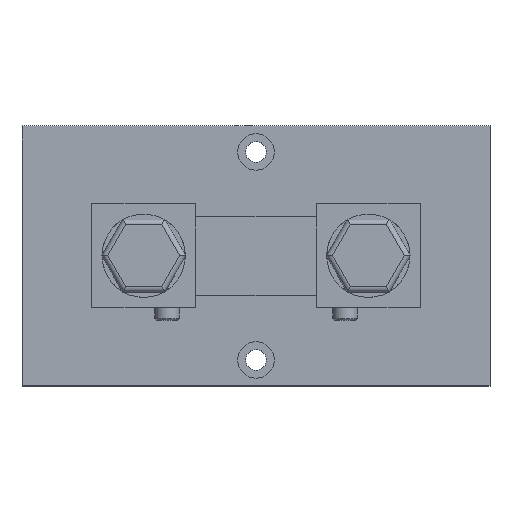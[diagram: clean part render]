
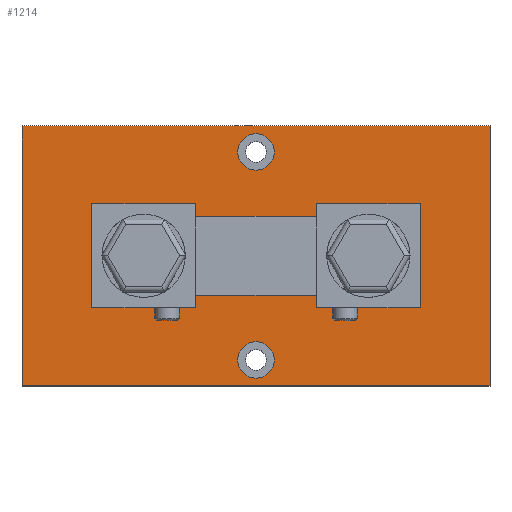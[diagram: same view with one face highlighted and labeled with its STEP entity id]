
A CAD part, top view. The second image highlights one B-rep face of the part: STEP entity #1214.
In plain terms, the highlighted planar face has unit normal (0, 0, 1).
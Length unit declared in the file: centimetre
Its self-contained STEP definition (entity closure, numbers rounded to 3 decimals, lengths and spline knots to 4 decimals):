
#76=CIRCLE('',#1301,0.4445);
#77=CIRCLE('',#1302,0.4445);
#164=VERTEX_POINT('',#1789);
#165=VERTEX_POINT('',#1791);
#167=VERTEX_POINT('',#1797);
#169=VERTEX_POINT('',#1803);
#172=VERTEX_POINT('',#1814);
#173=VERTEX_POINT('',#1816);
#175=VERTEX_POINT('',#1822);
#177=VERTEX_POINT('',#1828);
#178=VERTEX_POINT('',#1836);
#179=VERTEX_POINT('',#1837);
#180=VERTEX_POINT('',#1839);
#181=VERTEX_POINT('',#1841);
#182=VERTEX_POINT('',#1844);
#183=VERTEX_POINT('',#1846);
#268=VECTOR('',#1497,1.);
#272=VECTOR('',#1502,1.);
#275=VECTOR('',#1506,1.);
#277=VECTOR('',#1509,1.);
#280=VECTOR('',#1514,1.);
#284=VECTOR('',#1519,1.);
#287=VECTOR('',#1523,1.);
#289=VECTOR('',#1526,1.);
#290=VECTOR('',#1529,1.);
#291=VECTOR('',#1530,1.);
#292=VECTOR('',#1531,1.);
#293=VECTOR('',#1532,1.);
#376=LINE('',#1790,#268);
#380=LINE('',#1798,#272);
#383=LINE('',#1804,#275);
#385=LINE('',#1807,#277);
#388=LINE('',#1815,#280);
#392=LINE('',#1823,#284);
#395=LINE('',#1829,#287);
#397=LINE('',#1832,#289);
#398=LINE('',#1835,#290);
#399=LINE('',#1838,#291);
#400=LINE('',#1840,#292);
#401=LINE('',#1842,#293);
#540=EDGE_CURVE('',#165,#164,#376,.T.);
#544=EDGE_CURVE('',#164,#167,#380,.T.);
#547=EDGE_CURVE('',#167,#169,#383,.T.);
#549=EDGE_CURVE('',#169,#165,#385,.T.);
#552=EDGE_CURVE('',#173,#172,#388,.T.);
#556=EDGE_CURVE('',#172,#175,#392,.T.);
#559=EDGE_CURVE('',#175,#177,#395,.T.);
#561=EDGE_CURVE('',#177,#173,#397,.T.);
#562=EDGE_CURVE('',#178,#179,#398,.T.);
#563=EDGE_CURVE('',#180,#178,#399,.T.);
#564=EDGE_CURVE('',#181,#180,#400,.T.);
#565=EDGE_CURVE('',#179,#181,#401,.T.);
#566=EDGE_CURVE('',#182,#182,#76,.T.);
#567=EDGE_CURVE('',#183,#183,#77,.T.);
#878=ORIENTED_EDGE('',*,*,#562,.F.);
#879=ORIENTED_EDGE('',*,*,#563,.F.);
#880=ORIENTED_EDGE('',*,*,#564,.F.);
#881=ORIENTED_EDGE('',*,*,#565,.F.);
#882=ORIENTED_EDGE('',*,*,#566,.T.);
#883=ORIENTED_EDGE('',*,*,#567,.T.);
#884=ORIENTED_EDGE('',*,*,#552,.T.);
#885=ORIENTED_EDGE('',*,*,#556,.T.);
#886=ORIENTED_EDGE('',*,*,#559,.T.);
#887=ORIENTED_EDGE('',*,*,#561,.T.);
#888=ORIENTED_EDGE('',*,*,#540,.T.);
#889=ORIENTED_EDGE('',*,*,#544,.T.);
#890=ORIENTED_EDGE('',*,*,#547,.T.);
#891=ORIENTED_EDGE('',*,*,#549,.T.);
#1010=EDGE_LOOP('',(#878,#879,#880,#881));
#1011=EDGE_LOOP('',(#882));
#1012=EDGE_LOOP('',(#883));
#1013=EDGE_LOOP('',(#884,#885,#886,#887));
#1014=EDGE_LOOP('',(#888,#889,#890,#891));
#1118=FACE_BOUND('',#1010,.T.);
#1119=FACE_BOUND('',#1011,.T.);
#1120=FACE_BOUND('',#1012,.T.);
#1121=FACE_BOUND('',#1013,.T.);
#1122=FACE_BOUND('',#1014,.T.);
#1214=ADVANCED_FACE('',(#1118,#1119,#1120,#1121,#1122),#1916,.T.);
#1300=AXIS2_PLACEMENT_3D('',#1834,#1528,$);
#1301=AXIS2_PLACEMENT_3D('',#1843,#1533,#1534);
#1302=AXIS2_PLACEMENT_3D('',#1845,#1535,#1536);
#1497=DIRECTION('',(1.,0.,0.));
#1502=DIRECTION('',(0.,-1.,0.));
#1506=DIRECTION('',(-1.,0.,0.));
#1509=DIRECTION('',(0.,1.,0.));
#1514=DIRECTION('',(1.,0.,0.));
#1519=DIRECTION('',(0.,-1.,0.));
#1523=DIRECTION('',(-1.,0.,0.));
#1526=DIRECTION('',(0.,1.,0.));
#1528=DIRECTION('',(0.,0.,1.));
#1529=DIRECTION('',(1.,0.,0.));
#1530=DIRECTION('',(0.,1.,0.));
#1531=DIRECTION('',(-1.,0.,0.));
#1532=DIRECTION('',(0.,-1.,0.));
#1533=DIRECTION('',(0.,0.,-1.));
#1534=DIRECTION('',(0.,0.445,0.));
#1535=DIRECTION('',(0.,0.,-1.));
#1536=DIRECTION('',(0.,0.445,0.));
#1789=CARTESIAN_POINT('',(9.7282,4.445,1.4224));
#1790=CARTESIAN_POINT('',(7.0866,4.445,1.4224));
#1791=CARTESIAN_POINT('',(7.1882,4.445,1.4224));
#1797=CARTESIAN_POINT('',(9.7282,1.905,1.4224));
#1798=CARTESIAN_POINT('',(9.7282,3.175,1.4224));
#1803=CARTESIAN_POINT('',(7.1882,1.905,1.4224));
#1804=CARTESIAN_POINT('',(7.0866,1.905,1.4224));
#1807=CARTESIAN_POINT('',(7.1882,3.175,1.4224));
#1814=CARTESIAN_POINT('',(4.2418,4.445,1.4224));
#1815=CARTESIAN_POINT('',(4.3434,4.445,1.4224));
#1816=CARTESIAN_POINT('',(1.7018,4.445,1.4224));
#1822=CARTESIAN_POINT('',(4.2418,1.905,1.4224));
#1823=CARTESIAN_POINT('',(4.2418,3.175,1.4224));
#1828=CARTESIAN_POINT('',(1.7018,1.905,1.4224));
#1829=CARTESIAN_POINT('',(4.3434,1.905,1.4224));
#1832=CARTESIAN_POINT('',(1.7018,3.175,1.4224));
#1834=CARTESIAN_POINT('',(5.715,3.175,1.4224));
#1835=CARTESIAN_POINT('',(0.,6.35,1.4224));
#1836=CARTESIAN_POINT('',(0.,6.35,1.4224));
#1837=CARTESIAN_POINT('',(11.43,6.35,1.4224));
#1838=CARTESIAN_POINT('',(0.,0.,1.4224));
#1839=CARTESIAN_POINT('',(0.,0.,1.4224));
#1840=CARTESIAN_POINT('',(11.43,0.,1.4224));
#1841=CARTESIAN_POINT('',(11.43,0.,1.4224));
#1842=CARTESIAN_POINT('',(11.43,6.35,1.4224));
#1843=CARTESIAN_POINT('',(5.715,5.715,1.4224));
#1844=CARTESIAN_POINT('',(5.715,6.1595,1.4224));
#1845=CARTESIAN_POINT('',(5.715,0.635,1.4224));
#1846=CARTESIAN_POINT('',(5.715,1.0795,1.4224));
#1916=PLANE('',#1300);
